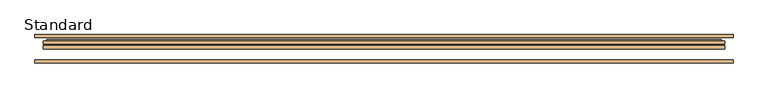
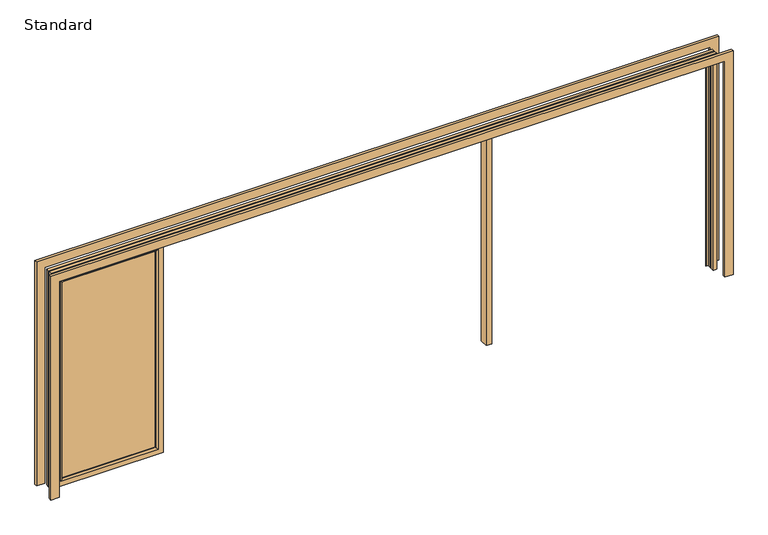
"""IFC4 building model written with IfcOpenShell, lengths in millimetres: door geometry, SMARTS_Visofold1000 : Standard."""

from ifc_helpers import new_model, si_unit, frame, origin, origin_with_axes, place, context, project, spatial, polyline, ellipse_curve, outline, extrude, faceted_brep, source, transform, mapped, element, save
from ifc_brep_helpers import plane_surface, cylinder_surface, advanced_brep


def standard_a7e802e4(model_context):
    return source(origin(), model_context, "Body", "SolidModel", [
        advanced_brep(
        [(-2050.5, 13.3, 60.5), (-2050.5, 13.3, 1939.5), (-2050.5, 17.4, 1939.5), (-2050.5, 17.4, 60.5), (-1990.0, 17.4, 0.0), (-1990.0, 17.4, 2000.0), (-1990.0, 0.0, 2000.0), (-1990.0, 0.0, 0.0), (-2899.5, 13.3, 1939.5), (-2899.5, 17.4, 1939.5), (-2960.0, 17.4, 2000.0), (-2960.0, 0.0, 2000.0), (-2899.5, 13.3, 60.5), (-2899.5, 17.4, 60.5), (-2960.0, 17.4, 0.0), (-2960.0, 0.0, 0.0), (-2037.2, 0.0, 1952.8), (-2037.2, 0.0, 47.2), (-2912.8, 0.0, 47.2), (-2912.8, 0.0, 1952.8), (-2007.8691481, 34.8, 17.8691481), (-2007.8691481, 34.8, 1982.1308519), (-2007.8691481, 17.4, 1982.1308519), (-2007.8691481, 17.4, 17.8691481), (-2942.1308519, 34.8, 1982.1308519), (-2942.1308519, 17.4, 1982.1308519), (-2942.1308519, 34.8, 17.8691481), (-2942.1308519, 17.4, 17.8691481), (-2035.0, 17.4, 45.0), (-2035.0, 17.4, 1955.0), (-2035.0, 34.8, 1955.0), (-2035.0, 34.8, 45.0), (-2915.0, 17.4, 1955.0), (-2915.0, 34.8, 1955.0), (-2915.0, 17.4, 45.0), (-2915.0, 34.8, 45.0)],
        [
            (0, 1),
            (1, 2),
            (2, 3),
            (3, 0),
            (4, 5),
            (5, 6),
            (6, 7),
            (7, 4),
            (1, 8),
            (8, 9),
            (9, 2),
            (5, 10),
            (10, 11),
            (11, 6),
            (8, 12),
            (12, 13),
            (13, 9),
            (10, 14),
            (14, 15),
            (15, 11),
            (12, 0),
            (3, 13),
            (15, 7),
            (16, 17),
            (17, 18),
            (18, 19),
            (19, 16),
            (14, 4),
            (16, 1, ellipse_curve(frame((-2037.2, 13.3, 1952.8), z_axis=(0.7071067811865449, 0.0, -0.70710678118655), x_axis=(-0.7071067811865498, 0.0, -0.7071067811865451)), 18.8090404, 13.3)),
            (0, 17, ellipse_curve(frame((-2037.2, 13.3, 47.2), z_axis=(0.70710678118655, 0.0, 0.7071067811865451), x_axis=(0.7071067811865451, 0.0, -0.7071067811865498)), 18.8090404, 13.3)),
            (19, 8, ellipse_curve(frame((-2912.8, 13.3, 1952.8), z_axis=(0.7071067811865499, 0.0, 0.707106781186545), x_axis=(0.7071067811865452, 0.0, -0.7071067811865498)), 18.8090404, 13.3)),
            (18, 12, ellipse_curve(frame((-2912.8, 13.3, 47.2), z_axis=(-0.7071067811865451, 0.0, 0.7071067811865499), x_axis=(0.7071067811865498, 0.0, 0.7071067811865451)), 18.8090404, 13.3)),
            (20, 21),
            (21, 22),
            (22, 23),
            (23, 20),
            (21, 24),
            (24, 25),
            (25, 22),
            (24, 26),
            (26, 27),
            (27, 25),
            (27, 23),
            (26, 20),
            (28, 29),
            (29, 30),
            (30, 31),
            (31, 28),
            (29, 32),
            (32, 33),
            (33, 30),
            (32, 34),
            (34, 35),
            (35, 33),
            (34, 28),
            (31, 35),
        ],
        [
            plane_surface(frame((-2050.5, 17.4, 60.5), z_axis=(-1.0, 0.0, 0.0), x_axis=(0.0, 0.0, 1.0))),
            plane_surface(frame((-1990.0, 0.0, 0.0), z_axis=(1.0, 0.0, 0.0), x_axis=(0.0, 0.0, 1.0))),
            plane_surface(frame((-2050.5, 17.4, 1939.5), z_axis=(0.0, 0.0, -1.0), x_axis=(-1.0, 0.0, 0.0))),
            plane_surface(frame((-1990.0, 0.0, 2000.0), z_axis=(0.0, 0.0, 1.0), x_axis=(-1.0, 0.0, 0.0))),
            plane_surface(frame((-2899.5, 17.4, 1939.5), z_axis=(1.0, 0.0, 0.0), x_axis=(0.0, 0.0, -1.0))),
            plane_surface(frame((-2960.0, 0.0, 2000.0), z_axis=(-1.0, 0.0, 0.0), x_axis=(0.0, 0.0, -1.0))),
            plane_surface(frame((-2899.5, 17.4, 60.5), z_axis=(0.0, 0.0, 1.0), x_axis=(1.0, 0.0, 0.0))),
            plane_surface(frame((-2912.8, 0.0, 47.2), z_axis=(0.0, -1.0, 0.0), x_axis=(1.0, 0.0, 0.0))),
            plane_surface(frame((-2960.0, 0.0, 0.0), z_axis=(0.0, 0.0, -1.0), x_axis=(1.0, 0.0, 0.0))),
            cylinder_surface(frame((-2037.2, 13.3, 0.0), z_axis=(0.0, 0.0, -1.0), x_axis=(0.0, 1.0, 0.0)), 13.3),
            cylinder_surface(frame((-1990.0, 13.3, 1952.8), z_axis=(1.0, 0.0, 0.0), x_axis=(0.0, 1.0, 0.0)), 13.3),
            cylinder_surface(frame((-2912.8, 13.3, 2000.0), z_axis=(0.0, 0.0, 1.0), x_axis=(0.0, 1.0, 0.0)), 13.3),
            cylinder_surface(frame((-2960.0, 13.3, 47.2), z_axis=(-1.0, 0.0, 0.0), x_axis=(0.0, 1.0, 0.0)), 13.3),
            plane_surface(frame((-2007.8691481, 17.4, 17.8691481), z_axis=(1.0, 0.0, 0.0), x_axis=(0.0, 0.0, 1.0))),
            plane_surface(frame((-2007.8691481, 17.4, 1982.1308519), z_axis=(0.0, 0.0, 1.0), x_axis=(-1.0, 0.0, 0.0))),
            plane_surface(frame((-2942.1308519, 17.4, 1982.1308519), z_axis=(-1.0, 0.0, 0.0), x_axis=(0.0, 0.0, -1.0))),
            plane_surface(frame((-2960.0, 17.4, 0.0), z_axis=(0.0, 1.0, 0.0), x_axis=(1.0, 0.0, 0.0))),
            plane_surface(frame((-2942.1308519, 17.4, 17.8691481), z_axis=(0.0, 0.0, -1.0), x_axis=(1.0, 0.0, 0.0))),
            plane_surface(frame((-2035.0, 34.8, 45.0), z_axis=(-1.0, 0.0, 0.0), x_axis=(0.0, 0.0, 1.0))),
            plane_surface(frame((-2035.0, 34.8, 1955.0), z_axis=(0.0, 0.0, -1.0), x_axis=(-1.0, 0.0, 0.0))),
            plane_surface(frame((-2915.0, 34.8, 1955.0), z_axis=(1.0, 0.0, 0.0), x_axis=(0.0, 0.0, -1.0))),
            plane_surface(frame((-2915.0, 34.8, 45.0), z_axis=(0.0, 0.0, 1.0), x_axis=(1.0, 0.0, 0.0))),
            plane_surface(frame((-2915.0, 17.4, 45.0), z_axis=(0.0, 1.0, 0.0), x_axis=(1.0, 0.0, 0.0))),
            plane_surface(frame((-2942.1308519, 34.8, 17.8691481), z_axis=(0.0, 1.0, 0.0), x_axis=(1.0, 0.0, 0.0))),
        ],
        [
            (0, [[1, 2, 3, 4]]),
            (1, [[5, 6, 7, 8]]),
            (2, [[9, 10, 11, -2]]),
            (3, [[12, 13, 14, -6]]),
            (4, [[15, 16, 17, -10]]),
            (5, [[18, 19, 20, -13]]),
            (6, [[21, -4, 22, -16]]),
            (7, [[-7, -14, -20, 23], [24, 25, 26, 27]]),
            (8, [[28, -8, -23, -19]]),
            (9, [[-24, 29, -1, 30]]),
            (10, [[-27, 31, -9, -29]]),
            (11, [[-26, 32, -15, -31]]),
            (12, [[-25, -30, -21, -32]]),
            (13, [[33, 34, 35, 36]]),
            (14, [[37, 38, 39, -34]]),
            (15, [[40, 41, 42, -38]]),
            (16, [[-5, -28, -18, -12], [-35, -39, -42, 43]]),
            (17, [[44, -36, -43, -41]]),
            (18, [[45, 46, 47, 48]]),
            (19, [[49, 50, 51, -46]]),
            (20, [[52, 53, 54, -50]]),
            (21, [[55, -48, 56, -53]]),
            (22, [[-45, -55, -52, -49], [-3, -11, -17, -22]]),
            (23, [[-33, -44, -40, -37], [-47, -51, -54, -56]]),
        ],
    ),
        extrude(outline(polyline([(-2050.5, 50.1484783), (-2050.5, 21.4), (-2899.5, 21.4), (-2899.5, 50.1484783), (-2050.5, 50.1484783)])), frame((0.0, 0.0, 60.5), z_axis=(0.0, 0.0, 1.0), x_axis=(1.0, 0.0, 0.0)), (0.0, 0.0, 1.0), 1879.0),
        extrude(outline(polyline([(970.0, 0.0), (920.0, 0.0), (920.0, 75.1750992), (970.0, 75.1750992), (970.0, 0.0)])), origin_with_axes(), (0.0, 0.0, 1.0), 2000.0),
        extrude(outline(polyline([(2058.6516063, -3000.0), (2058.6516063, 3000.0), (0.0, 3000.0), (0.0, 3075.0), (2133.6516063, 3075.0), (2133.6516063, -3075.0), (0.0, -3075.0), (0.0, -3000.0), (2058.6516063, -3000.0)])), frame((0.0, 100.0, 0.0), z_axis=(0.0, 1.0, 0.0), x_axis=(0.0, 0.0, 1.0)), (0.0, 0.0, 1.0), 25.0),
        extrude(outline(polyline([(2133.6516063, -3075.0), (0.0, -3075.0), (0.0, -3000.0), (2058.6516063, -3000.0), (2058.6516063, 3000.0), (0.0, 3000.0), (0.0, 3075.0), (2133.6516063, 3075.0), (2133.6516063, -3075.0)])), frame((0.0, -125.0, 0.0), z_axis=(0.0, 1.0, 0.0), x_axis=(0.0, 0.0, 1.0)), (0.0, 0.0, 1.0), 25.0),
        extrude(outline(polyline([(0.0, 2968.8), (0.0, 3000.0), (2058.6516063, 3000.0), (2058.6516063, -3000.0), (0.0, -3000.0), (0.0, -2968.8), (2027.4516063, -2968.8), (2027.4516063, 2968.8), (0.0, 2968.8)])), frame((0.0, 0.0, 0.0), z_axis=(0.0, 1.0, 0.0), x_axis=(0.0, 0.0, 1.0)), (0.0, 0.0, 1.0), 29.65),
        faceted_brep([(3000.0, 44.85, 0.0), (2968.8, 44.85, 0.0), (2968.8, 77.4, 0.0), (2948.3, 77.4, 0.0), (2948.3, 81.9, 0.0), (2970.6, 81.9, 0.0), (2970.6, 70.0, 0.0), (3000.0, 70.0, 0.0), (3000.0, 44.85, 2058.6516063), (-3000.0, 44.85, 2058.6516063), (-3000.0, 44.85, 0.0), (-2968.8, 44.85, 0.0), (-2968.8, 44.85, 2027.4516063), (2968.8, 44.85, 2027.4516063), (2968.8, 77.4, 2027.4516063), (-2968.8, 77.4, 2027.4516063), (-2968.8, 77.4, 0.0), (-2948.3, 77.4, 0.0), (-2948.3, 77.4, 2006.9516063), (2948.3, 77.4, 2006.9516063), (2948.3, 81.9, 2006.9516063), (-2948.3, 81.9, 2006.9516063), (-2948.3, 81.9, 0.0), (-2970.6, 81.9, 0.0), (-2970.6, 81.9, 2029.2516063), (2970.6, 81.9, 2029.2516063), (2970.6, 70.0, 2029.2516063), (-2970.6, 70.0, 2029.2516063), (-2970.6, 70.0, 0.0), (-3000.0, 70.0, 0.0), (-3000.0, 70.0, 2058.6516063), (3000.0, 70.0, 2058.6516063)], [[[0, 1, 2, 3, 4, 5, 6, 7]], [[1, 0, 8, 9, 10, 11, 12, 13]], [[2, 1, 13, 14]], [[3, 2, 14, 15, 16, 17, 18, 19]], [[4, 3, 19, 20]], [[5, 4, 20, 21, 22, 23, 24, 25]], [[6, 5, 25, 26]], [[7, 6, 26, 27, 28, 29, 30, 31]], [[0, 7, 31, 8]], [[10, 29, 28, 23, 22, 17, 16, 11]], [[9, 30, 29, 10]], [[27, 24, 23, 28]], [[21, 18, 17, 22]], [[15, 12, 11, 16]], [[8, 31, 30, 9]], [[14, 13, 12, 15]], [[26, 25, 24, 27]], [[20, 19, 18, 21]]]),
    ])


if __name__ == "__main__":
    model = new_model("IFC4")
    model_context = context("Model", 3, world=origin())
    ifc_project = project(units=[si_unit("LENGTHUNIT", "METRE", prefix="MILLI")], contexts=[model_context])
    site = spatial("IfcSite", under=ifc_project)
    building = spatial("IfcBuilding", under=site)
    placement = place(None, origin())
    standard_shape = standard_a7e802e4(model_context)
    element("IfcDoor", 1, ObjectType="SMARTS_Visofold1000 : Standard", at=placement, inside=building, context=model_context, shape_type="MappedRepresentation", body=[
        mapped(standard_shape, transform((0.0, 0.0, 0.0), x_axis=(1.0, 0.0, 0.0), y_axis=(0.0, 1.0, 0.0), z_axis=(0.0, 0.0, 1.0))),
    ])
    save(model, "model.ifc")
